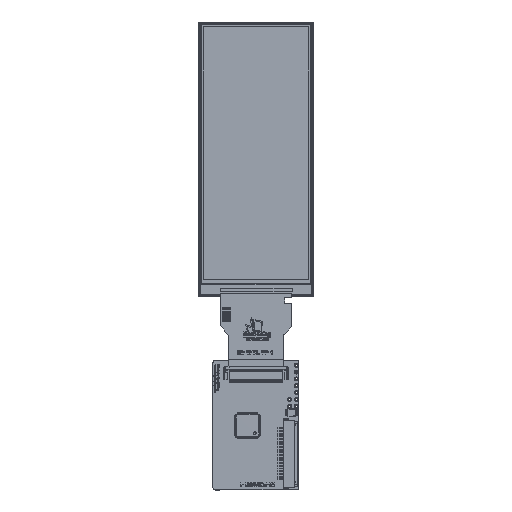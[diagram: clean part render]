
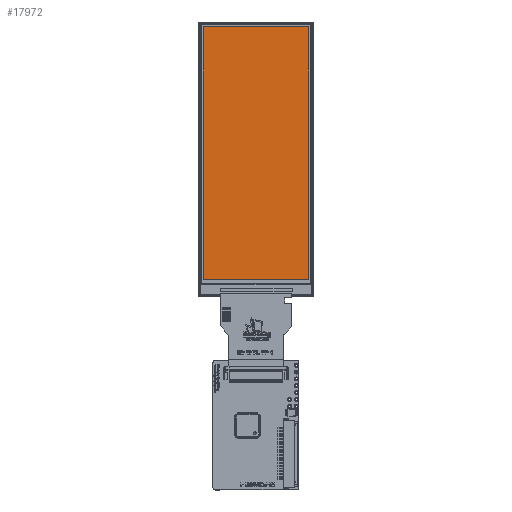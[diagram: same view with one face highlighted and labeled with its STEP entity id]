
A CAD part, top view. The second image highlights one B-rep face of the part: STEP entity #17972.
In plain terms, the highlighted planar face has unit normal (0, 0, 1).
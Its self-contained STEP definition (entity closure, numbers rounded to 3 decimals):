
#13655 = CARTESIAN_POINT ( 'NONE',  ( -19.59, -44.792, 2.04 ) ) ;
#16316 = DIRECTION ( 'NONE',  ( -1., 0., 0. ) ) ;
#17972 = ADVANCED_FACE ( 'NONE', ( #261645 ), #100390, .T. ) ;
#23904 = CARTESIAN_POINT ( 'NONE',  ( -19.59, 49.24, 2.04 ) ) ;
#33452 = DIRECTION ( 'NONE',  ( 0., 0., 1. ) ) ;
#35254 = CARTESIAN_POINT ( 'NONE',  ( 19.59, 49.24, 2.04 ) ) ;
#38361 = CARTESIAN_POINT ( 'NONE',  ( -19.59, 0., 2.04 ) ) ;
#49707 = VECTOR ( 'NONE', #265260, 1000. ) ;
#64785 = CARTESIAN_POINT ( 'NONE',  ( 19.59, -44.792, 2.04 ) ) ;
#65574 = ORIENTED_EDGE ( 'NONE', *, *, #75271, .F. ) ;
#69887 = DIRECTION ( 'NONE',  ( 0., -1., 0. ) ) ;
#75271 = EDGE_CURVE ( 'NONE', #107850, #99051, #194636, .T. ) ;
#80151 = EDGE_LOOP ( 'NONE', ( #219917, #152800, #65574, #98543 ) ) ;
#80377 = CARTESIAN_POINT ( 'NONE',  ( 0., 0., 2.04 ) ) ;
#83127 = VECTOR ( 'NONE', #16316, 1000. ) ;
#87642 = LINE ( 'NONE', #169426, #122093 ) ;
#98543 = ORIENTED_EDGE ( 'NONE', *, *, #115687, .F. ) ;
#99051 = VERTEX_POINT ( 'NONE', #64785 ) ;
#100390 = PLANE ( 'NONE',  #158778 ) ;
#107850 = VERTEX_POINT ( 'NONE', #35254 ) ;
#115687 = EDGE_CURVE ( 'NONE', #144985, #107850, #87642, .T. ) ;
#122093 = VECTOR ( 'NONE', #142734, 1000. ) ;
#140270 = LINE ( 'NONE', #38361, #49707 ) ;
#142734 = DIRECTION ( 'NONE',  ( 1., 0., 0. ) ) ;
#144985 = VERTEX_POINT ( 'NONE', #23904 ) ;
#152800 = ORIENTED_EDGE ( 'NONE', *, *, #175922, .F. ) ;
#152988 = CARTESIAN_POINT ( 'NONE',  ( 19.59, 0., 2.04 ) ) ;
#158778 = AXIS2_PLACEMENT_3D ( 'NONE', #80377, #33452, #206431 ) ;
#169260 = EDGE_CURVE ( 'NONE', #175841, #144985, #140270, .T. ) ;
#169426 = CARTESIAN_POINT ( 'NONE',  ( 0., 49.24, 2.04 ) ) ;
#175841 = VERTEX_POINT ( 'NONE', #13655 ) ;
#175922 = EDGE_CURVE ( 'NONE', #99051, #175841, #200149, .T. ) ;
#194636 = LINE ( 'NONE', #152988, #212478 ) ;
#200149 = LINE ( 'NONE', #237792, #83127 ) ;
#206431 = DIRECTION ( 'NONE',  ( 1., 0., 0. ) ) ;
#212478 = VECTOR ( 'NONE', #69887, 1000. ) ;
#219917 = ORIENTED_EDGE ( 'NONE', *, *, #169260, .F. ) ;
#237792 = CARTESIAN_POINT ( 'NONE',  ( 0., -44.792, 2.04 ) ) ;
#261645 = FACE_OUTER_BOUND ( 'NONE', #80151, .T. ) ;
#265260 = DIRECTION ( 'NONE',  ( 0., 1., 0. ) ) ;
